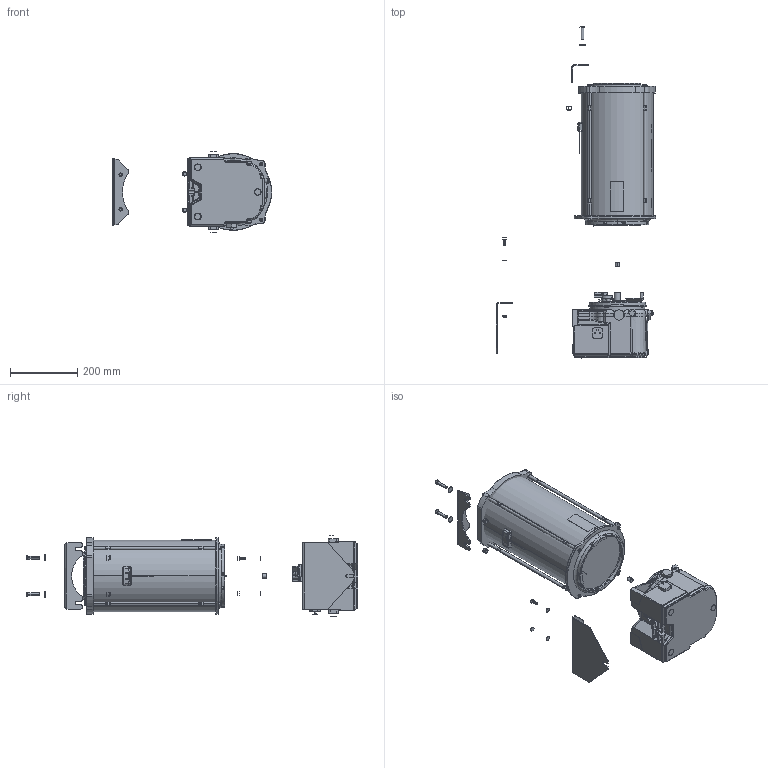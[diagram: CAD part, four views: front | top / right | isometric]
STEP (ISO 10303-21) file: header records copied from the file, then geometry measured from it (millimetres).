
FILE_DESCRIPTION((''),'2;1');
FILE_NAME('96G500-EN-M_PRT','2022-02-14T14:48:30',('qtmwp1'),(''),'CREO PARAMETRIC BY PTC INC, 2021072','CREO PARAMETRIC BY PTC INC, 2021072','');
FILE_SCHEMA(('CONFIG_CONTROL_DESIGN'));
Products named in the file (1): 96G500-EN-M_PRT
Bounding box: 472.89 x 984.87 x 241 mm (x, y, z)
Surface area: 1065187.2 mm2 (no closed solid volume)
Topology: 0 solids, 157 shells, 1089 faces, 4039 edges, 2969 vertices
Faces by surface type: plane 423, cylinder 299, cone 180, torus 140, bspline 41, extrusion 4, revolution 2
Entity records: 57581 total; most frequent: CARTESIAN_POINT 26481, DIRECTION 6076, ORIENTED_EDGE 5705, EDGE_CURVE 4037, VERTEX_POINT 2969, AXIS2_PLACEMENT_3D 2241, VECTOR 1592, LINE 1588
